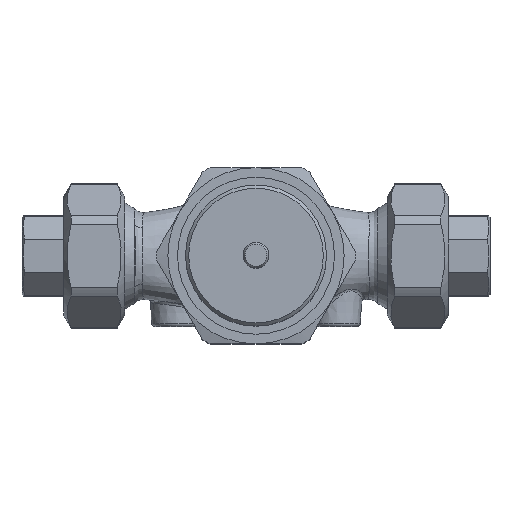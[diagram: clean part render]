
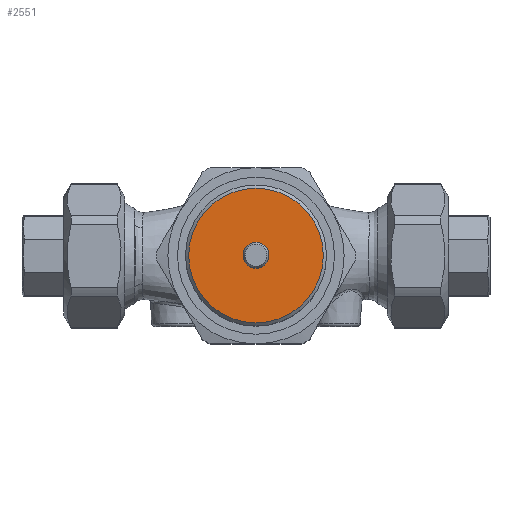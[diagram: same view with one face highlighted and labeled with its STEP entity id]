
A CAD part, top view. The second image highlights one B-rep face of the part: STEP entity #2551.
In plain terms, the highlighted planar face has unit normal (0, 0, 1).
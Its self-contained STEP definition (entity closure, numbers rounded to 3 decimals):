
#2290=PLANE('',#10077);
#2551=ADVANCED_FACE('',(#3377,#3378),#2290,.F.);
#3377=FACE_BOUND('',#3655,.T.);
#3378=FACE_BOUND('',#3656,.T.);
#3655=EDGE_LOOP('',(#4652));
#3656=EDGE_LOOP('',(#4653));
#4652=ORIENTED_EDGE('',*,*,#8160,.F.);
#4653=ORIENTED_EDGE('',*,*,#8161,.T.);
#7197=VERTEX_POINT('',#20084);
#7198=VERTEX_POINT('',#20086);
#8160=EDGE_CURVE('',#7197,#7197,#9443,.T.);
#8161=EDGE_CURVE('',#7198,#7198,#9444,.T.);
#9443=CIRCLE('',#10075,4.);
#9444=CIRCLE('',#10076,21.);
#10075=AXIS2_PLACEMENT_3D('',#20083,#11381,#11382);
#10076=AXIS2_PLACEMENT_3D('',#20085,#11383,#11384);
#10077=AXIS2_PLACEMENT_3D('',#20087,#11385,#11386);
#11381=DIRECTION('',(0.,0.,1.));
#11382=DIRECTION('',(-1.,0.,0.));
#11383=DIRECTION('',(0.,0.,1.));
#11384=DIRECTION('',(-1.,0.,0.));
#11385=DIRECTION('',(0.,0.,-1.));
#11386=DIRECTION('',(-1.,0.,0.));
#20083=CARTESIAN_POINT('',(0.,0.,80.6));
#20084=CARTESIAN_POINT('',(-4.,0.,80.6));
#20085=CARTESIAN_POINT('',(0.,0.,80.6));
#20086=CARTESIAN_POINT('',(-21.,0.,80.6));
#20087=CARTESIAN_POINT('',(0.,-11.25,80.6));
